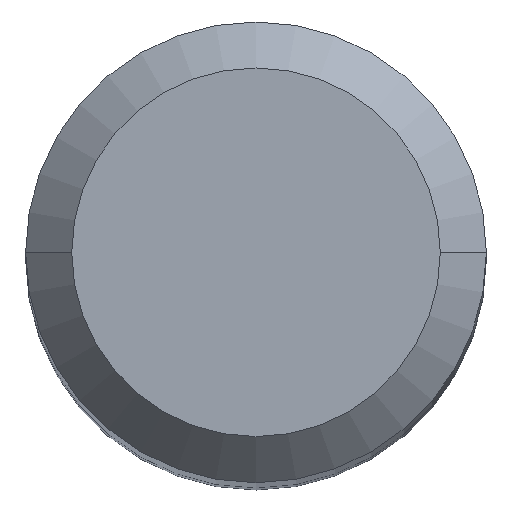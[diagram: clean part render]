
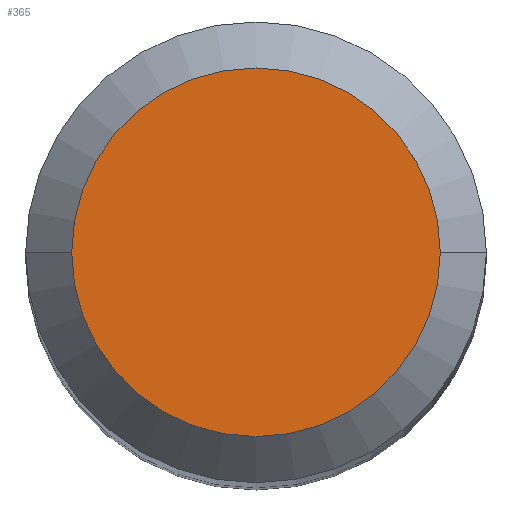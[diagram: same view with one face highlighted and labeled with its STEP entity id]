
A CAD part, top view. The second image highlights one B-rep face of the part: STEP entity #365.
In plain terms, the highlighted planar face has unit normal (0, 0, 1).
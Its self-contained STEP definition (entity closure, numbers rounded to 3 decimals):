
#17 = CARTESIAN_POINT ( 'NONE',  ( 3.6, 0., 0. ) ) ;
#40 = ORIENTED_EDGE ( 'NONE', *, *, #45, .F. ) ;
#41 = DIRECTION ( 'NONE',  ( 0., 0., 1. ) ) ;
#45 = EDGE_CURVE ( 'NONE', #311, #256, #145, .T. ) ;
#80 = FACE_OUTER_BOUND ( 'NONE', #190, .T. ) ;
#119 = AXIS2_PLACEMENT_3D ( 'NONE', #268, #297, #358 ) ;
#137 = CIRCLE ( 'NONE', #315, 3.6 ) ;
#145 = CIRCLE ( 'NONE', #119, 3.6 ) ;
#190 = EDGE_LOOP ( 'NONE', ( #40, #382 ) ) ;
#206 = CARTESIAN_POINT ( 'NONE',  ( 0., 3.6, 0. ) ) ;
#210 = EDGE_CURVE ( 'NONE', #256, #311, #137, .T. ) ;
#230 = PLANE ( 'NONE',  #273 ) ;
#250 = CARTESIAN_POINT ( 'NONE',  ( 0., 0., 0. ) ) ;
#255 = DIRECTION ( 'NONE',  ( -1., 0., 0. ) ) ;
#256 = VERTEX_POINT ( 'NONE', #17 ) ;
#268 = CARTESIAN_POINT ( 'NONE',  ( 0., 0., 0. ) ) ;
#273 = AXIS2_PLACEMENT_3D ( 'NONE', #206, #41, #326 ) ;
#297 = DIRECTION ( 'NONE',  ( 0., 0., -1. ) ) ;
#311 = VERTEX_POINT ( 'NONE', #321 ) ;
#315 = AXIS2_PLACEMENT_3D ( 'NONE', #250, #377, #255 ) ;
#321 = CARTESIAN_POINT ( 'NONE',  ( -3.6, 0., 0. ) ) ;
#326 = DIRECTION ( 'NONE',  ( 1., 0., 0. ) ) ;
#358 = DIRECTION ( 'NONE',  ( -1., 0., 0. ) ) ;
#365 = ADVANCED_FACE ( 'NONE', ( #80 ), #230, .T. ) ;
#377 = DIRECTION ( 'NONE',  ( 0., 0., -1. ) ) ;
#382 = ORIENTED_EDGE ( 'NONE', *, *, #210, .F. ) ;
